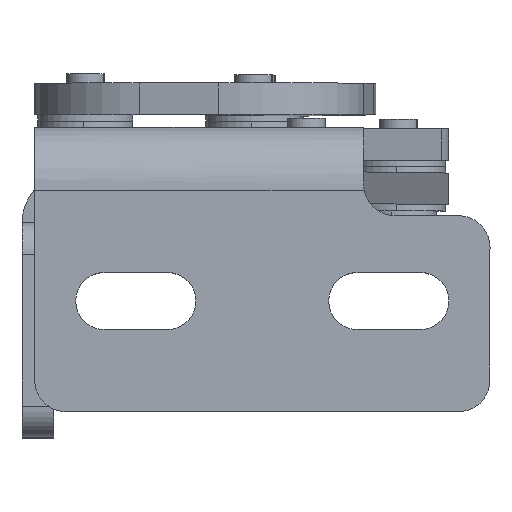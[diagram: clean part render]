
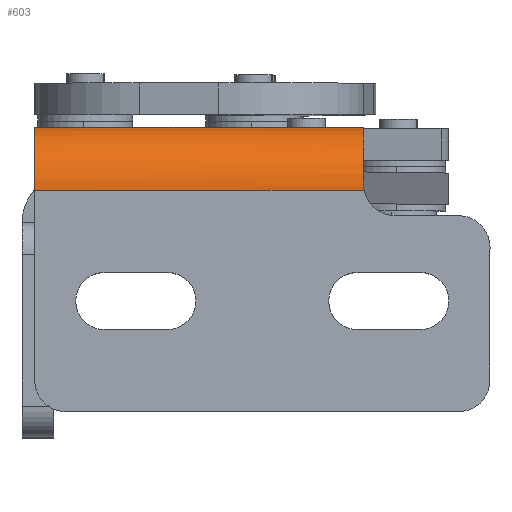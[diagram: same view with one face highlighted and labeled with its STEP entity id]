
A CAD part, top view. The second image highlights one B-rep face of the part: STEP entity #603.
In plain terms, the highlighted cylindrical face has radius 10 mm (diameter 20 mm), a partial arc.
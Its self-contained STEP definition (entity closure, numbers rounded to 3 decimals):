
#89 = VERTEX_POINT ( 'NONE', #1091 ) ;
#376 = CIRCLE ( 'NONE', #2895, 10. ) ;
#386 = CARTESIAN_POINT ( 'NONE',  ( -2582.399, -675., 1090. ) ) ;
#416 = LINE ( 'NONE', #536, #4533 ) ;
#536 = CARTESIAN_POINT ( 'NONE',  ( 0., -675., 1090. ) ) ;
#603 = ADVANCED_FACE ( 'NONE', ( #1110 ), #7333, .T. ) ;
#887 = VERTEX_POINT ( 'NONE', #1515 ) ;
#1073 = EDGE_CURVE ( 'NONE', #1281, #887, #416, .T. ) ;
#1091 = CARTESIAN_POINT ( 'NONE',  ( -2634.5, -665., 1080. ) ) ;
#1110 = FACE_OUTER_BOUND ( 'NONE', #5998, .T. ) ;
#1210 = ORIENTED_EDGE ( 'NONE', *, *, #2664, .F. ) ;
#1281 = VERTEX_POINT ( 'NONE', #386 ) ;
#1515 = CARTESIAN_POINT ( 'NONE',  ( -2634.5, -675., 1090. ) ) ;
#2196 = AXIS2_PLACEMENT_3D ( 'NONE', #5422, #4140, #7997 ) ;
#2233 = EDGE_CURVE ( 'NONE', #7195, #6001, #4572, .T. ) ;
#2307 = DIRECTION ( 'NONE',  ( -1., 0., 0. ) ) ;
#2513 = B_SPLINE_CURVE_WITH_KNOTS ( 'NONE', 3,
 ( #5192, #3292, #3954, #5930 ),
 .UNSPECIFIED., .F., .F.,
 ( 4, 4 ),
 ( 0., 0.001 ),
 .UNSPECIFIED. ) ;
#2664 = EDGE_CURVE ( 'NONE', #887, #89, #376, .T. ) ;
#2699 = ORIENTED_EDGE ( 'NONE', *, *, #1073, .F. ) ;
#2792 = EDGE_CURVE ( 'NONE', #89, #7195, #4174, .T. ) ;
#2895 = AXIS2_PLACEMENT_3D ( 'NONE', #6554, #5328, #3348 ) ;
#3186 = EDGE_CURVE ( 'NONE', #1281, #6001, #2513, .T. ) ;
#3292 = CARTESIAN_POINT ( 'NONE',  ( -2582.466, -674.669, 1090. ) ) ;
#3348 = DIRECTION ( 'NONE',  ( 0., 0., 1. ) ) ;
#3387 = CARTESIAN_POINT ( 'NONE',  ( -2582.5, -665., 1080. ) ) ;
#3954 = CARTESIAN_POINT ( 'NONE',  ( -2582.5, -674.336, 1089.984 ) ) ;
#4140 = DIRECTION ( 'NONE',  ( 1., 0., 0. ) ) ;
#4174 = LINE ( 'NONE', #4833, #7723 ) ;
#4322 = DIRECTION ( 'NONE',  ( -1., 0., 0. ) ) ;
#4533 = VECTOR ( 'NONE', #4322, 1000. ) ;
#4572 = CIRCLE ( 'NONE', #2196, 10. ) ;
#4833 = CARTESIAN_POINT ( 'NONE',  ( -2634.5, -665., 1080. ) ) ;
#4836 = DIRECTION ( 'NONE',  ( 0., 0., 1. ) ) ;
#5192 = CARTESIAN_POINT ( 'NONE',  ( -2582.399, -675., 1090. ) ) ;
#5225 = AXIS2_PLACEMENT_3D ( 'NONE', #6073, #2307, #4836 ) ;
#5328 = DIRECTION ( 'NONE',  ( -1., 0., 0. ) ) ;
#5422 = CARTESIAN_POINT ( 'NONE',  ( -2582.5, -675., 1080. ) ) ;
#5930 = CARTESIAN_POINT ( 'NONE',  ( -2582.5, -674., 1089.95 ) ) ;
#5998 = EDGE_LOOP ( 'NONE', ( #6729, #6136, #1210, #2699, #8001 ) ) ;
#6001 = VERTEX_POINT ( 'NONE', #7000 ) ;
#6073 = CARTESIAN_POINT ( 'NONE',  ( -2634.5, -675., 1080. ) ) ;
#6136 = ORIENTED_EDGE ( 'NONE', *, *, #2792, .F. ) ;
#6554 = CARTESIAN_POINT ( 'NONE',  ( -2634.5, -675., 1080. ) ) ;
#6729 = ORIENTED_EDGE ( 'NONE', *, *, #2233, .F. ) ;
#7000 = CARTESIAN_POINT ( 'NONE',  ( -2582.5, -674., 1089.95 ) ) ;
#7195 = VERTEX_POINT ( 'NONE', #3387 ) ;
#7333 = CYLINDRICAL_SURFACE ( 'NONE', #5225, 10. ) ;
#7723 = VECTOR ( 'NONE', #7865, 1000. ) ;
#7865 = DIRECTION ( 'NONE',  ( 1., 0., 0. ) ) ;
#7997 = DIRECTION ( 'NONE',  ( 0., 0., 1. ) ) ;
#8001 = ORIENTED_EDGE ( 'NONE', *, *, #3186, .T. ) ;
